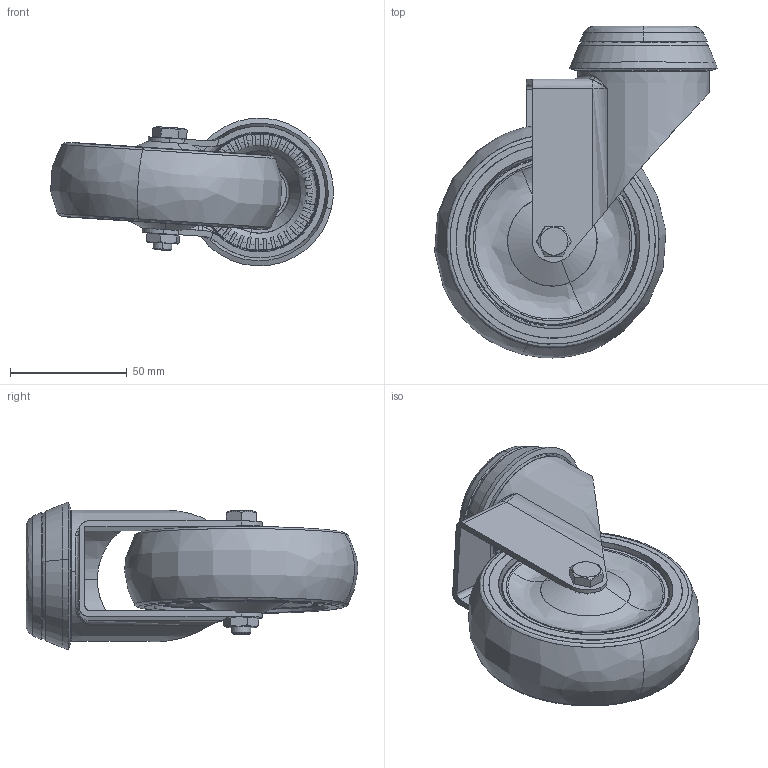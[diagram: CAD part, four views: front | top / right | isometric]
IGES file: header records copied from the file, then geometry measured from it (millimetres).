
Start section: SolidWorks IGES file using analytic representation for surfaces
Global section: file name: S:\Tyokansio\VL\14.2.2012\301572_IGES.IGS; native system: SolidWorks 2011; preprocessor: SolidWorks 2011; author: VilleLa; date: 120227.151844; units: millimetre
Bounding box: 121.14 x 142.23 x 63.32 mm (x, y, z)
Surface area: 85202.4 mm2 (no closed solid volume)
Topology: 0 solids, 0 shells, 262 faces, 3832 edges, 3830 vertices
Faces by surface type: bspline 180, revolution 82
